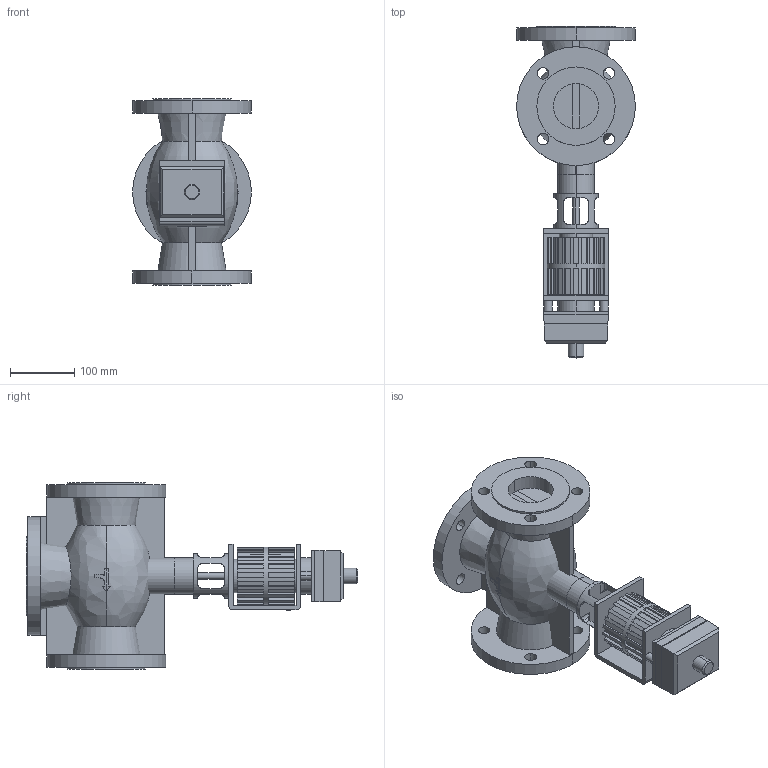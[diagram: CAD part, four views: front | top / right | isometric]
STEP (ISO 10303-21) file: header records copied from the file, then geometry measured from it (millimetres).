
FILE_DESCRIPTION((''),'2;1');
FILE_NAME('000266.stp','2006-10-04T15:57:44',(''),(''),'Mechanical Desktop 2006','Mechanical Desktop 2006',', , ');
FILE_SCHEMA(('AUTOMOTIVE_DESIGN { 1 2 10303 214 0 1 1 1 }'));
Length unit declared in the file: millimetre
Products named in the file (1): Product
Bounding box: 185 x 517 x 290 mm (x, y, z)
Volume: 6580598.3 mm3; surface area: 690482 mm2
Topology: 28 solids, 28 shells, 558 faces, 1468 edges, 967 vertices
Faces by surface type: plane 267, cylinder 188, bspline 97, cone 6
Entity records: 18018 total; most frequent: CARTESIAN_POINT 4112, ORIENTED_EDGE 2936, DIRECTION 2771, EDGE_CURVE 1468, VERTEX_POINT 967, VECTOR 939, LINE 939, AXIS2_PLACEMENT_3D 916
